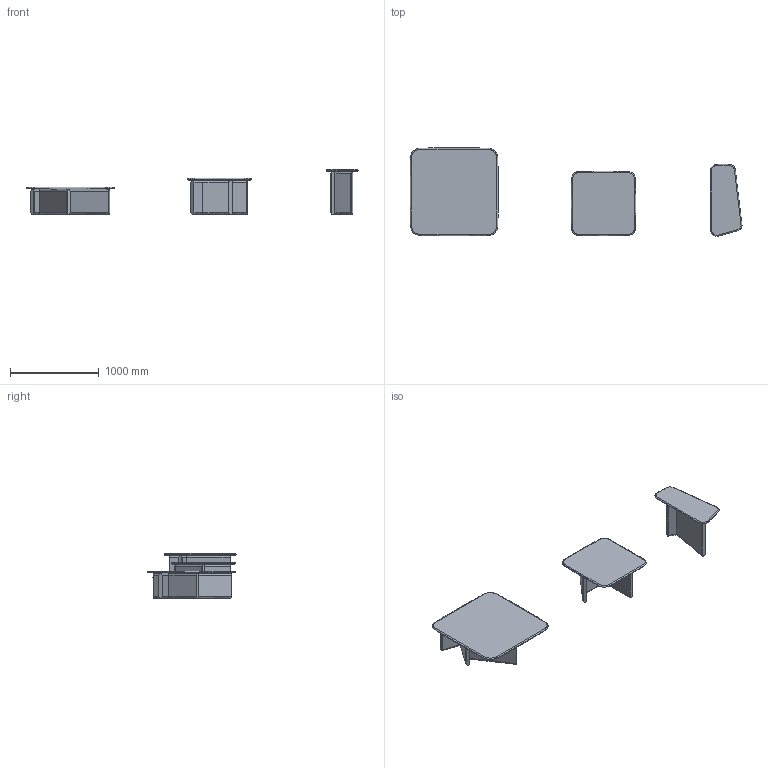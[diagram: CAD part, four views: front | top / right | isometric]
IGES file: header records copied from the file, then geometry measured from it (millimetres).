
Global section: file name: C:\Users\l.marzoli\Desktop\3D_2024\x-web\TYPE-coffee-table\3D_TYPE-coffee-table.igs; native system: Rhinoceros ( Aug 11 2021 ); preprocessor: Trout Lake IGES 012 Aug 11 2021; date: 240429.131622; units: millimetre
Bounding box: 3740.42 x 997.71 x 508 mm (x, y, z)
Surface area: 7398796.3 mm2 (no closed solid volume)
Topology: 0 solids, 0 shells, 1027 faces, 9236 edges, 9068 vertices
Faces by surface type: bspline 1027
